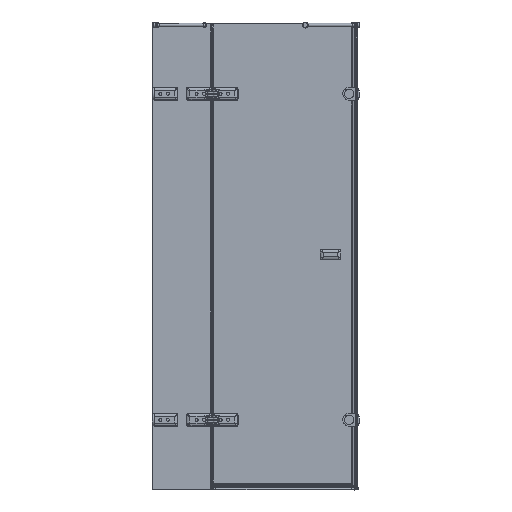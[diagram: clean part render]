
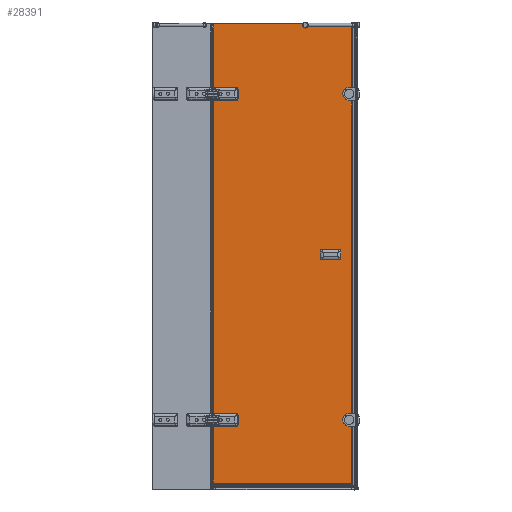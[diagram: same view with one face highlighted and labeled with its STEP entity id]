
A CAD part, left-side view. The second image highlights one B-rep face of the part: STEP entity #28391.
In plain terms, the highlighted planar face has unit normal (-1, 0, 0).
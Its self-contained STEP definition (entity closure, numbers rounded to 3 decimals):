
#1030=PLANE($,#30784);
#1406=FACE_BOUND($,#9758,.T.);
#1407=FACE_BOUND($,#9759,.T.);
#1408=FACE_BOUND($,#9760,.T.);
#1725=LINE($,#40482,#4153);
#2222=LINE($,#56848,#4650);
#2903=LINE($,#60006,#5331);
#3579=LINE($,#64580,#6007);
#3599=LINE($,#64737,#6027);
#3635=LINE($,#64889,#6063);
#3637=LINE($,#64893,#6065);
#3638=LINE($,#64897,#6066);
#3639=LINE($,#64900,#6067);
#3640=LINE($,#64904,#6068);
#3641=LINE($,#64907,#6069);
#3642=LINE($,#64908,#6070);
#4153=VECTOR($,#31759,598.747);
#4650=VECTOR($,#33508,1362.);
#5331=VECTOR($,#35485,281.);
#6007=VECTOR($,#37321,30.747);
#6027=VECTOR($,#37371,256.4);
#6063=VECTOR($,#37479,30.747);
#6065=VECTOR($,#37483,30.747);
#6066=VECTOR($,#37486,18.);
#6067=VECTOR($,#37489,30.747);
#6068=VECTOR($,#37492,18.);
#6069=VECTOR($,#37495,598.747);
#6070=VECTOR($,#37496,1975.4);
#9758=EDGE_LOOP($,(#24286));
#9759=EDGE_LOOP($,(#24287));
#9760=EDGE_LOOP($,(#24288,#24289,#24290,#24291,#24292,#24293,#24294,#24295,
#24296,#24297,#24298,#24299,#24300,#24301,#24302,#24303));
#10761=CIRCLE($,#29311,6.5);
#11007=CIRCLE($,#29959,6.5);
#11273=CIRCLE($,#30785,10.);
#11274=CIRCLE($,#30786,10.);
#11275=CIRCLE($,#30787,10.);
#11276=CIRCLE($,#30788,10.);
#11649=VERTEX_POINT($,#40479);
#11650=VERTEX_POINT($,#40481);
#12142=VERTEX_POINT($,#55908);
#12324=VERTEX_POINT($,#56845);
#12325=VERTEX_POINT($,#56847);
#12795=VERTEX_POINT($,#59072);
#12974=VERTEX_POINT($,#60004);
#13564=VERTEX_POINT($,#64579);
#13589=VERTEX_POINT($,#64725);
#13590=VERTEX_POINT($,#64736);
#13620=VERTEX_POINT($,#64888);
#13621=VERTEX_POINT($,#64892);
#13622=VERTEX_POINT($,#64894);
#13623=VERTEX_POINT($,#64896);
#13624=VERTEX_POINT($,#64899);
#13625=VERTEX_POINT($,#64901);
#13626=VERTEX_POINT($,#64903);
#13627=VERTEX_POINT($,#64906);
#14214=EDGE_CURVE($,#11649,#11650,#1725,.T.);
#14907=EDGE_CURVE($,#12142,#12142,#10761,.T.);
#15197=EDGE_CURVE($,#12325,#12324,#2222,.T.);
#15944=EDGE_CURVE($,#12795,#12795,#11007,.T.);
#16231=EDGE_CURVE($,#11649,#12974,#2903,.T.);
#17186=EDGE_CURVE($,#13564,#12325,#3579,.T.);
#17224=EDGE_CURVE($,#13590,#13589,#3599,.T.);
#17277=EDGE_CURVE($,#13620,#13590,#3635,.T.);
#17279=EDGE_CURVE($,#12974,#13621,#3637,.T.);
#17280=EDGE_CURVE($,#13622,#13621,#11273,.T.);
#17281=EDGE_CURVE($,#13622,#13623,#3638,.T.);
#17282=EDGE_CURVE($,#13564,#13623,#11274,.T.);
#17283=EDGE_CURVE($,#12324,#13624,#3639,.T.);
#17284=EDGE_CURVE($,#13625,#13624,#11275,.T.);
#17285=EDGE_CURVE($,#13625,#13626,#3640,.T.);
#17286=EDGE_CURVE($,#13620,#13626,#11276,.T.);
#17287=EDGE_CURVE($,#13627,#13589,#3641,.T.);
#17288=EDGE_CURVE($,#13627,#11650,#3642,.T.);
#24286=ORIENTED_EDGE($,*,*,#14907,.T.);
#24287=ORIENTED_EDGE($,*,*,#15944,.T.);
#24288=ORIENTED_EDGE($,*,*,#16231,.T.);
#24289=ORIENTED_EDGE($,*,*,#17279,.T.);
#24290=ORIENTED_EDGE($,*,*,#17280,.F.);
#24291=ORIENTED_EDGE($,*,*,#17281,.T.);
#24292=ORIENTED_EDGE($,*,*,#17282,.F.);
#24293=ORIENTED_EDGE($,*,*,#17186,.T.);
#24294=ORIENTED_EDGE($,*,*,#15197,.T.);
#24295=ORIENTED_EDGE($,*,*,#17283,.T.);
#24296=ORIENTED_EDGE($,*,*,#17284,.F.);
#24297=ORIENTED_EDGE($,*,*,#17285,.T.);
#24298=ORIENTED_EDGE($,*,*,#17286,.F.);
#24299=ORIENTED_EDGE($,*,*,#17277,.T.);
#24300=ORIENTED_EDGE($,*,*,#17224,.T.);
#24301=ORIENTED_EDGE($,*,*,#17287,.F.);
#24302=ORIENTED_EDGE($,*,*,#17288,.T.);
#24303=ORIENTED_EDGE($,*,*,#14214,.F.);
#28391=ADVANCED_FACE($,(#1406,#1407,#1408),#1030,.T.);
#29311=AXIS2_PLACEMENT_3D($,#55909,#32938,#32939);
#29959=AXIS2_PLACEMENT_3D($,#59073,#34917,#34918);
#30784=AXIS2_PLACEMENT_3D($,#64891,#37481,#37482);
#30785=AXIS2_PLACEMENT_3D($,#64895,#37484,#37485);
#30786=AXIS2_PLACEMENT_3D($,#64898,#37487,#37488);
#30787=AXIS2_PLACEMENT_3D($,#64902,#37490,#37491);
#30788=AXIS2_PLACEMENT_3D($,#64905,#37493,#37494);
#31759=DIRECTION($,(0.,-1.,0.));
#32938=DIRECTION('center_axis',(1.,0.,0.));
#32939=DIRECTION('ref_axis',(0.,1.,0.));
#33508=DIRECTION($,(0.,0.,-1.));
#34917=DIRECTION('center_axis',(1.,0.,0.));
#34918=DIRECTION('ref_axis',(0.,1.,0.));
#35485=DIRECTION($,(0.,0.,-1.));
#37321=DIRECTION($,(0.,1.,0.));
#37371=DIRECTION($,(0.,0.,-1.));
#37479=DIRECTION($,(0.,1.,0.));
#37481=DIRECTION('center_axis',(-1.,0.,0.));
#37482=DIRECTION('ref_axis',(0.,-1.,0.));
#37483=DIRECTION($,(0.,-1.,0.));
#37484=DIRECTION('center_axis',(-1.,0.,0.));
#37485=DIRECTION('ref_axis',(0.,-0.707,
0.707));
#37486=DIRECTION($,(0.,0.,-1.));
#37487=DIRECTION('center_axis',(-1.,0.,0.));
#37488=DIRECTION('ref_axis',(0.,-0.707,-0.707));
#37489=DIRECTION($,(0.,-1.,0.));
#37490=DIRECTION('center_axis',(-1.,0.,0.));
#37491=DIRECTION('ref_axis',(0.,-0.707,
0.707));
#37492=DIRECTION($,(0.,0.,-1.));
#37493=DIRECTION('center_axis',(-1.,0.,0.));
#37494=DIRECTION('ref_axis',(0.,-0.707,-0.707));
#37495=DIRECTION($,(0.,1.,0.));
#37496=DIRECTION($,(0.,0.,1.));
#40479=CARTESIAN_POINT('',(1240.019,584.703,1485.944));
#40481=CARTESIAN_POINT('',(1240.019,-14.044,1485.944));
#40482=CARTESIAN_POINT($,(1240.019,585.956,1485.944));
#55908=CARTESIAN_POINT('',(1240.019,514.456,-214.056));
#55909=CARTESIAN_POINT('Origin',(1240.019,520.956,-214.056));
#56845=CARTESIAN_POINT('',(1240.019,584.703,-195.056));
#56847=CARTESIAN_POINT('',(1240.019,584.703,1166.944));
#56848=CARTESIAN_POINT($,(1240.019,584.703,-204.056));
#59072=CARTESIAN_POINT('',(1240.019,514.456,1185.944));
#59073=CARTESIAN_POINT('Origin',(1240.019,520.956,1185.944));
#60004=CARTESIAN_POINT('',(1240.019,584.703,1204.944));
#60006=CARTESIAN_POINT($,(1240.019,584.703,1195.944));
#64579=CARTESIAN_POINT('',(1240.019,553.956,1166.944));
#64580=CARTESIAN_POINT($,(1240.019,564.956,1166.944));
#64725=CARTESIAN_POINT('',(1240.019,584.703,-489.456));
#64736=CARTESIAN_POINT('',(1240.019,584.703,-233.056));
#64737=CARTESIAN_POINT($,(1240.019,584.703,-224.056));
#64888=CARTESIAN_POINT('',(1240.019,553.956,-233.056));
#64889=CARTESIAN_POINT($,(1240.019,564.956,-233.056));
#64891=CARTESIAN_POINT('Origin',(1240.019,585.956,-494.056));
#64892=CARTESIAN_POINT('',(1240.019,553.956,1204.944));
#64893=CARTESIAN_POINT($,(1240.019,585.956,1204.944));
#64894=CARTESIAN_POINT('',(1240.019,543.956,1194.944));
#64895=CARTESIAN_POINT('Origin',(1240.019,553.956,1194.944));
#64896=CARTESIAN_POINT('',(1240.019,543.956,1176.944));
#64897=CARTESIAN_POINT($,(1240.019,543.956,355.444));
#64898=CARTESIAN_POINT('Origin',(1240.019,553.956,1176.944));
#64899=CARTESIAN_POINT('',(1240.019,553.956,-195.056));
#64900=CARTESIAN_POINT($,(1240.019,585.956,-195.056));
#64901=CARTESIAN_POINT('',(1240.019,543.956,-205.056));
#64902=CARTESIAN_POINT('Origin',(1240.019,553.956,-205.056));
#64903=CARTESIAN_POINT('',(1240.019,543.956,-223.056));
#64904=CARTESIAN_POINT($,(1240.019,543.956,-344.556));
#64905=CARTESIAN_POINT('Origin',(1240.019,553.956,-223.056));
#64906=CARTESIAN_POINT('',(1240.019,-14.044,-489.456));
#64907=CARTESIAN_POINT($,(1240.019,-24.044,-489.456));
#64908=CARTESIAN_POINT($,(1240.019,-14.044,-494.056));
